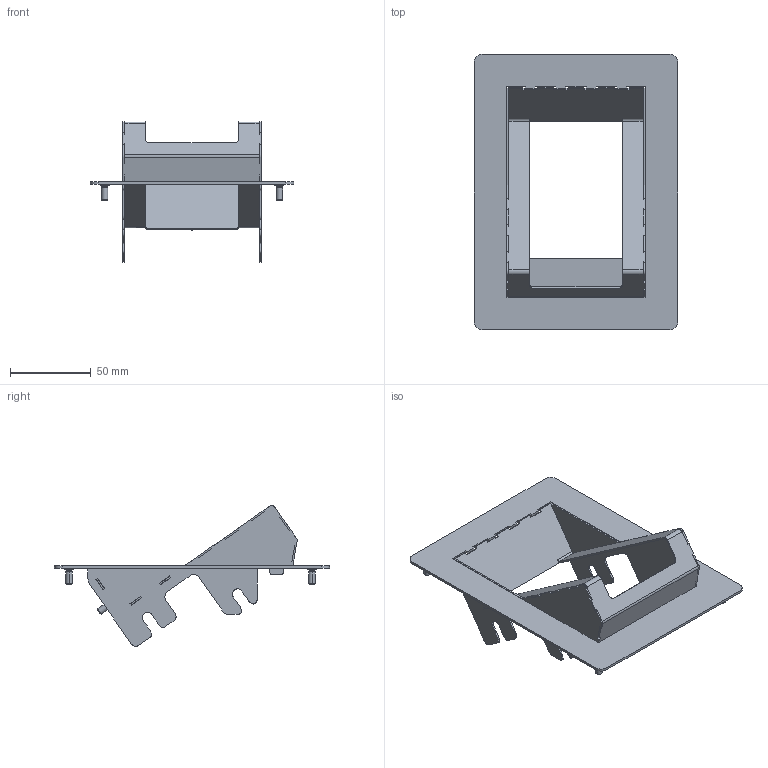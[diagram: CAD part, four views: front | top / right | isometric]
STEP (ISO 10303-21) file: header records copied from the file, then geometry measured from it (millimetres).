
FILE_DESCRIPTION (( 'STEP AP203' ), '1' );
FILE_NAME ('庋.803-5-26.0.0.0.STEP', '2021-03-06T18:08:42', ( '' ), ( '' ), 'SwSTEP 2.0', 'SolidWorks 2016', '' );
FILE_SCHEMA (( 'CONFIG_CONTROL_DESIGN' ));
Length unit declared in the file: millimetre
Products named in the file (7): 庋.803-5-26.2.0.0; ÊÍ.803-5_Øïèëüêà CFT Ì4õ10_˜¯¨«ìª  CFT M4x10; 庋.803-5-26.2.0.1; 庋.803-5-26.0.0.0; 庋.803-5-26.0.0.1; 庋.803-5-26.1.0.0; 庋.803-5-26.1.0.1
Assembly tree (11 placements, depth 3):
  庋.803-5-26.0.0.0
    庋.803-5-26.1.0.0
      庋.803-5-26.1.0.1
      ÊÍ.803-5_Øïèëüêà CFT Ì4õ10_˜¯¨«ìª  CFT M4x10
    庋.803-5-26.0.0.1  x2
    庋.803-5-26.2.0.0
      庋.803-5-26.2.0.1
      ÊÍ.803-5_Øïèëüêà CFT Ì4õ10_˜¯¨«ìª  CFT M4x10  x4
Bounding box: 126 x 169.98 x 86.96 mm (x, y, z)
Volume: 35572.1 mm3; surface area: 62020.6 mm2
Topology: 9 solids, 9 shells, 475 faces, 1282 edges, 823 vertices
Faces by surface type: plane 305, cylinder 130, cone 30, torus 10
Entity records: 10971 total; most frequent: CARTESIAN_POINT 1784, ORIENTED_EDGE 1756, DIRECTION 1714, EDGE_CURVE 878, VECTOR 712, LINE 712, VERTEX_POINT 571, AXIS2_PLACEMENT_3D 501
